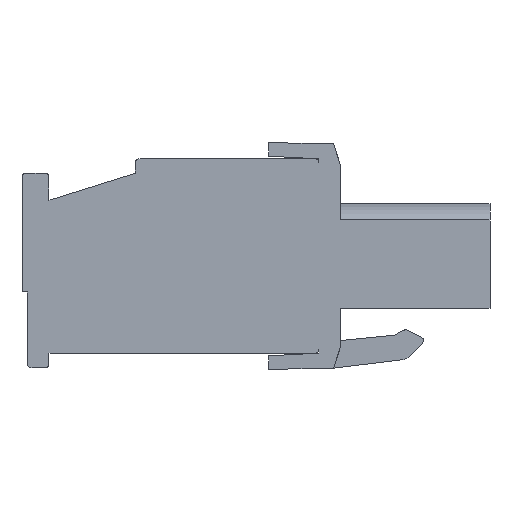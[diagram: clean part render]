
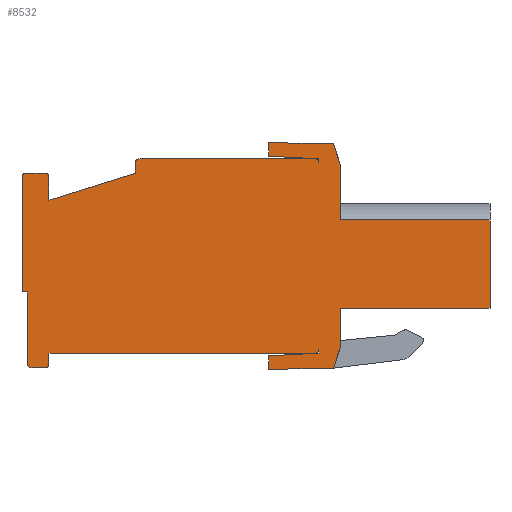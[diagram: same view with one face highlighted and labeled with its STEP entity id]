
A CAD part, left-side view. The second image highlights one B-rep face of the part: STEP entity #8532.
In plain terms, the highlighted planar face has unit normal (-1, 0, 0).
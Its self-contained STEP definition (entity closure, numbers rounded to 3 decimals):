
#1=DIRECTION('',(0.,1.,0.));
#2=VECTOR('',#1,1.1);
#3=CARTESIAN_POINT('',(10.,24.7,-1.697));
#4=LINE('',#3,#2);
#17=DIRECTION('',(0.,0.,1.));
#18=VECTOR('',#17,1.3);
#19=CARTESIAN_POINT('',(10.,24.5,-3.197));
#20=LINE('',#19,#18);
#25=DIRECTION('',(0.,0.,-1.));
#26=VECTOR('',#25,0.6);
#27=CARTESIAN_POINT('',(10.,19.7,-1.097));
#28=LINE('',#27,#26);
#41=DIRECTION('',(0.,1.,0.));
#42=VECTOR('',#41,9.8);
#43=CARTESIAN_POINT('',(10.,9.7,-0.897));
#44=LINE('',#43,#42);
#216=DIRECTION('',(0.,0.,1.));
#217=VECTOR('',#216,3.034);
#218=CARTESIAN_POINT('',(10.,8.3,-4.297));
#219=LINE('',#218,#217);
#399=DIRECTION('',(0.,0.,1.));
#400=VECTOR('',#399,4.9);
#401=CARTESIAN_POINT('',(10.,0.,-9.197));
#402=LINE('',#401,#400);
#1184=DIRECTION('',(0.,-1.,0.));
#1185=VECTOR('',#1184,14.8);
#1186=CARTESIAN_POINT('',(10.,24.5,-11.697));
#1187=LINE('',#1186,#1185);
#1212=DIRECTION('',(0.,0.,1.));
#1213=VECTOR('',#1212,0.6);
#1214=CARTESIAN_POINT('',(10.,24.5,-12.297));
#1215=LINE('',#1214,#1213);
#1224=DIRECTION('',(0.,-1.,0.));
#1225=VECTOR('',#1224,0.8);
#1226=CARTESIAN_POINT('',(10.,25.5,-12.497));
#1227=LINE('',#1226,#1225);
#1240=DIRECTION('',(0.,0.,-1.));
#1241=VECTOR('',#1240,4.);
#1242=CARTESIAN_POINT('',(10.,25.7,-8.297));
#1243=LINE('',#1242,#1241);
#1248=DIRECTION('',(0.,-1.,0.));
#1249=VECTOR('',#1248,0.3);
#1250=CARTESIAN_POINT('',(10.,26.,-8.297));
#1251=LINE('',#1250,#1249);
#1252=DIRECTION('',(0.,0.,-1.));
#1253=VECTOR('',#1252,6.4);
#1254=CARTESIAN_POINT('',(10.,26.,-1.897));
#1255=LINE('',#1254,#1253);
#1324=DIRECTION('',(0.,1.,0.));
#1325=VECTOR('',#1324,8.3);
#1326=CARTESIAN_POINT('',(10.,0.,-9.197));
#1327=LINE('',#1326,#1325);
#1328=DIRECTION('',(0.,0.,-1.));
#1329=VECTOR('',#1328,2.134);
#1330=CARTESIAN_POINT('',(10.,8.3,-9.197));
#1331=LINE('',#1330,#1329);
#1332=DIRECTION('',(0.,0.316,-0.949));
#1333=VECTOR('',#1332,1.265);
#1334=CARTESIAN_POINT('',(10.,8.3,-11.331));
#1335=LINE('',#1334,#1333);
#1336=DIRECTION('',(0.,1.,-0.017));
#1337=VECTOR('',#1336,3.601);
#1338=CARTESIAN_POINT('',(10.,8.7,-12.531));
#1339=LINE('',#1338,#1337);
#1340=DIRECTION('',(0.,0.,1.));
#1341=VECTOR('',#1340,0.75);
#1342=CARTESIAN_POINT('',(10.,12.3,-12.593));
#1343=LINE('',#1342,#1341);
#1344=DIRECTION('',(0.,-0.999,0.052));
#1345=VECTOR('',#1344,2.804);
#1346=CARTESIAN_POINT('',(10.,12.3,-11.843));
#1347=LINE('',#1346,#1345);
#1348=DIRECTION('',(0.,0.,1.));
#1349=VECTOR('',#1348,0.2);
#1350=CARTESIAN_POINT('',(10.,9.5,-11.697));
#1351=LINE('',#1350,#1349);
#1352=CARTESIAN_POINT('',(10.,9.7,-11.497));
#1353=DIRECTION('',(1.,0.,0.));
#1354=DIRECTION('',(0.,-1.,0.));
#1355=AXIS2_PLACEMENT_3D('',#1352,#1353,#1354);
#1357=CARTESIAN_POINT('',(10.,24.7,-12.297));
#1358=DIRECTION('',(1.,0.,0.));
#1359=DIRECTION('',(0.,-1.,0.));
#1360=AXIS2_PLACEMENT_3D('',#1357,#1358,#1359);
#1362=CARTESIAN_POINT('',(10.,25.5,-12.297));
#1363=DIRECTION('',(1.,0.,0.));
#1364=DIRECTION('',(0.,0.,-1.));
#1365=AXIS2_PLACEMENT_3D('',#1362,#1363,#1364);
#1367=CARTESIAN_POINT('',(10.,25.8,-1.897));
#1368=DIRECTION('',(1.,0.,0.));
#1369=DIRECTION('',(0.,1.,0.));
#1370=AXIS2_PLACEMENT_3D('',#1367,#1368,#1369);
#1372=CARTESIAN_POINT('',(10.,24.7,-1.897));
#1373=DIRECTION('',(1.,0.,0.));
#1374=DIRECTION('',(0.,0.,1.));
#1375=AXIS2_PLACEMENT_3D('',#1372,#1373,#1374);
#1377=DIRECTION('',(0.,-0.954,0.298));
#1378=VECTOR('',#1377,5.029);
#1379=CARTESIAN_POINT('',(10.,24.5,-3.197));
#1380=LINE('',#1379,#1378);
#1381=CARTESIAN_POINT('',(10.,19.5,-1.097));
#1382=DIRECTION('',(1.,0.,0.));
#1383=DIRECTION('',(0.,1.,0.));
#1384=AXIS2_PLACEMENT_3D('',#1381,#1382,#1383);
#1386=CARTESIAN_POINT('',(10.,9.7,-1.097));
#1387=DIRECTION('',(1.,0.,0.));
#1388=DIRECTION('',(0.,0.,1.));
#1389=AXIS2_PLACEMENT_3D('',#1386,#1387,#1388);
#1391=DIRECTION('',(0.,0.,1.));
#1392=VECTOR('',#1391,0.2);
#1393=CARTESIAN_POINT('',(10.,9.5,-1.097));
#1394=LINE('',#1393,#1392);
#1395=DIRECTION('',(0.,0.999,0.052));
#1396=VECTOR('',#1395,2.804);
#1397=CARTESIAN_POINT('',(10.,9.5,-0.897));
#1398=LINE('',#1397,#1396);
#1399=DIRECTION('',(0.,0.,1.));
#1400=VECTOR('',#1399,0.75);
#1401=CARTESIAN_POINT('',(10.,12.3,-0.75));
#1402=LINE('',#1401,#1400);
#1403=DIRECTION('',(0.,-1.,-0.017));
#1404=VECTOR('',#1403,3.601);
#1405=CARTESIAN_POINT('',(10.,12.3,0.));
#1406=LINE('',#1405,#1404);
#1407=DIRECTION('',(0.,-0.316,-0.949));
#1408=VECTOR('',#1407,1.265);
#1409=CARTESIAN_POINT('',(10.,8.7,-0.063));
#1410=LINE('',#1409,#1408);
#1411=DIRECTION('',(0.,1.,0.));
#1412=VECTOR('',#1411,8.3);
#1413=CARTESIAN_POINT('',(10.,0.,-4.297));
#1414=LINE('',#1413,#1412);
#6046=CARTESIAN_POINT('',(10.,24.7,-1.697));
#6048=VERTEX_POINT('',#6046);
#6050=CARTESIAN_POINT('',(10.,25.8,-1.697));
#6051=VERTEX_POINT('',#6050);
#6055=CARTESIAN_POINT('',(10.,24.5,-1.897));
#6057=VERTEX_POINT('',#6055);
#6059=CARTESIAN_POINT('',(10.,24.5,-3.197));
#6061=VERTEX_POINT('',#6059);
#6063=CARTESIAN_POINT('',(10.,19.7,-1.697));
#6065=VERTEX_POINT('',#6063);
#6066=CARTESIAN_POINT('',(10.,19.7,-1.097));
#6068=VERTEX_POINT('',#6066);
#6071=CARTESIAN_POINT('',(10.,19.5,-0.897));
#6073=VERTEX_POINT('',#6071);
#6084=CARTESIAN_POINT('',(10.,9.7,-0.897));
#6085=VERTEX_POINT('',#6084);
#6127=CARTESIAN_POINT('',(10.,9.5,-1.097));
#6129=VERTEX_POINT('',#6127);
#6148=CARTESIAN_POINT('',(10.,9.5,-0.897));
#6149=VERTEX_POINT('',#6148);
#6158=CARTESIAN_POINT('',(10.,12.3,-0.75));
#6160=VERTEX_POINT('',#6158);
#6174=CARTESIAN_POINT('',(10.,12.3,0.));
#6176=VERTEX_POINT('',#6174);
#6188=CARTESIAN_POINT('',(10.,8.7,-0.063));
#6189=VERTEX_POINT('',#6188);
#6206=CARTESIAN_POINT('',(10.,8.3,-1.263));
#6208=VERTEX_POINT('',#6206);
#6252=CARTESIAN_POINT('',(10.,0.,-9.197));
#6253=VERTEX_POINT('',#6252);
#6254=CARTESIAN_POINT('',(10.,0.,-4.297));
#6255=VERTEX_POINT('',#6254);
#6384=CARTESIAN_POINT('',(10.,8.3,-11.331));
#6385=VERTEX_POINT('',#6384);
#6386=CARTESIAN_POINT('',(10.,8.3,-9.197));
#6387=VERTEX_POINT('',#6386);
#6570=CARTESIAN_POINT('',(10.,9.5,-11.497));
#6571=VERTEX_POINT('',#6570);
#6596=CARTESIAN_POINT('',(10.,9.7,-11.697));
#6597=VERTEX_POINT('',#6596);
#6598=CARTESIAN_POINT('',(10.,9.5,-11.697));
#6599=VERTEX_POINT('',#6598);
#6612=CARTESIAN_POINT('',(10.,8.7,-12.531));
#6613=VERTEX_POINT('',#6612);
#6614=CARTESIAN_POINT('',(10.,12.3,-12.593));
#6615=VERTEX_POINT('',#6614);
#6616=CARTESIAN_POINT('',(10.,12.3,-11.843));
#6617=VERTEX_POINT('',#6616);
#6618=CARTESIAN_POINT('',(10.,24.5,-11.697));
#6619=VERTEX_POINT('',#6618);
#6620=CARTESIAN_POINT('',(10.,24.5,-12.297));
#6621=VERTEX_POINT('',#6620);
#6622=CARTESIAN_POINT('',(10.,24.7,-12.497));
#6623=VERTEX_POINT('',#6622);
#6624=CARTESIAN_POINT('',(10.,25.5,-12.497));
#6625=VERTEX_POINT('',#6624);
#6626=CARTESIAN_POINT('',(10.,25.7,-12.297));
#6627=VERTEX_POINT('',#6626);
#6628=CARTESIAN_POINT('',(10.,25.7,-8.297));
#6629=VERTEX_POINT('',#6628);
#6630=CARTESIAN_POINT('',(10.,26.,-8.297));
#6631=VERTEX_POINT('',#6630);
#6632=CARTESIAN_POINT('',(10.,26.,-1.897));
#6633=VERTEX_POINT('',#6632);
#7253=CARTESIAN_POINT('',(10.,8.3,-4.297));
#7255=VERTEX_POINT('',#7253);
#8489=CARTESIAN_POINT('',(10.,26.,3.901));
#8490=DIRECTION('',(1.,0.,0.));
#8491=DIRECTION('',(0.,0.,-1.));
#8492=AXIS2_PLACEMENT_3D('',#8489,#8490,#8491);
#8493=PLANE('',#8492);
#8495=ORIENTED_EDGE('',*,*,#8494,.F.);
#8496=ORIENTED_EDGE('',*,*,#7756,.F.);
#8498=ORIENTED_EDGE('',*,*,#8497,.T.);
#8499=ORIENTED_EDGE('',*,*,#7920,.T.);
#8501=ORIENTED_EDGE('',*,*,#8500,.T.);
#8502=ORIENTED_EDGE('',*,*,#8164,.T.);
#8503=ORIENTED_EDGE('',*,*,#8207,.T.);
#8504=ORIENTED_EDGE('',*,*,#8229,.T.);
#8505=ORIENTED_EDGE('',*,*,#8259,.T.);
#8506=ORIENTED_EDGE('',*,*,#8308,.T.);
#8507=ORIENTED_EDGE('',*,*,#8320,.F.);
#8508=ORIENTED_EDGE('',*,*,#8355,.F.);
#8509=ORIENTED_EDGE('',*,*,#8369,.T.);
#8510=ORIENTED_EDGE('',*,*,#8383,.F.);
#8511=ORIENTED_EDGE('',*,*,#8397,.T.);
#8512=ORIENTED_EDGE('',*,*,#8411,.F.);
#8513=ORIENTED_EDGE('',*,*,#8425,.F.);
#8514=ORIENTED_EDGE('',*,*,#8439,.F.);
#8515=ORIENTED_EDGE('',*,*,#8482,.T.);
#8516=ORIENTED_EDGE('',*,*,#7268,.F.);
#8517=ORIENTED_EDGE('',*,*,#7284,.T.);
#8518=ORIENTED_EDGE('',*,*,#7299,.F.);
#8519=ORIENTED_EDGE('',*,*,#7314,.T.);
#8520=ORIENTED_EDGE('',*,*,#7329,.F.);
#8521=ORIENTED_EDGE('',*,*,#7344,.T.);
#8522=ORIENTED_EDGE('',*,*,#7367,.F.);
#8523=ORIENTED_EDGE('',*,*,#7428,.T.);
#8524=ORIENTED_EDGE('',*,*,#7468,.T.);
#8525=ORIENTED_EDGE('',*,*,#7491,.T.);
#8526=ORIENTED_EDGE('',*,*,#7527,.T.);
#8527=ORIENTED_EDGE('',*,*,#7550,.T.);
#8528=ORIENTED_EDGE('',*,*,#7581,.T.);
#8529=ORIENTED_EDGE('',*,*,#7631,.F.);
#8530=EDGE_LOOP('',(#8495,#8496,#8498,#8499,#8501,#8502,#8503,#8504,#8505,#8506,
#8507,#8508,#8509,#8510,#8511,#8512,#8513,#8514,#8515,#8516,#8517,#8518,#8519,
#8520,#8521,#8522,#8523,#8524,#8525,#8526,#8527,#8528,#8529));
#8531=FACE_OUTER_BOUND('',#8530,.F.);
#8532=ADVANCED_FACE('',(#8531),#8493,.F.);
#1356=CIRCLE('',#1355,0.2);
#1361=CIRCLE('',#1360,0.2);
#1366=CIRCLE('',#1365,0.2);
#1371=CIRCLE('',#1370,0.2);
#1376=CIRCLE('',#1375,0.2);
#1385=CIRCLE('',#1384,0.2);
#1390=CIRCLE('',#1389,0.2);
#7268=EDGE_CURVE('',#6048,#6051,#4,.T.);
#7284=EDGE_CURVE('',#6048,#6057,#1376,.T.);
#7299=EDGE_CURVE('',#6061,#6057,#20,.T.);
#7314=EDGE_CURVE('',#6061,#6065,#1380,.T.);
#7329=EDGE_CURVE('',#6068,#6065,#28,.T.);
#7344=EDGE_CURVE('',#6068,#6073,#1385,.T.);
#7367=EDGE_CURVE('',#6085,#6073,#44,.T.);
#7428=EDGE_CURVE('',#6085,#6129,#1390,.T.);
#7468=EDGE_CURVE('',#6129,#6149,#1394,.T.);
#7491=EDGE_CURVE('',#6149,#6160,#1398,.T.);
#7527=EDGE_CURVE('',#6160,#6176,#1402,.T.);
#7550=EDGE_CURVE('',#6176,#6189,#1406,.T.);
#7581=EDGE_CURVE('',#6189,#6208,#1410,.T.);
#7631=EDGE_CURVE('',#7255,#6208,#219,.T.);
#7756=EDGE_CURVE('',#6253,#6255,#402,.T.);
#7920=EDGE_CURVE('',#6387,#6385,#1331,.T.);
#8164=EDGE_CURVE('',#6613,#6615,#1339,.T.);
#8207=EDGE_CURVE('',#6615,#6617,#1343,.T.);
#8229=EDGE_CURVE('',#6617,#6599,#1347,.T.);
#8259=EDGE_CURVE('',#6599,#6571,#1351,.T.);
#8308=EDGE_CURVE('',#6571,#6597,#1356,.T.);
#8320=EDGE_CURVE('',#6619,#6597,#1187,.T.);
#8355=EDGE_CURVE('',#6621,#6619,#1215,.T.);
#8369=EDGE_CURVE('',#6621,#6623,#1361,.T.);
#8383=EDGE_CURVE('',#6625,#6623,#1227,.T.);
#8397=EDGE_CURVE('',#6625,#6627,#1366,.T.);
#8411=EDGE_CURVE('',#6629,#6627,#1243,.T.);
#8425=EDGE_CURVE('',#6631,#6629,#1251,.T.);
#8439=EDGE_CURVE('',#6633,#6631,#1255,.T.);
#8482=EDGE_CURVE('',#6633,#6051,#1371,.T.);
#8494=EDGE_CURVE('',#6255,#7255,#1414,.T.);
#8497=EDGE_CURVE('',#6253,#6387,#1327,.T.);
#8500=EDGE_CURVE('',#6385,#6613,#1335,.T.);
